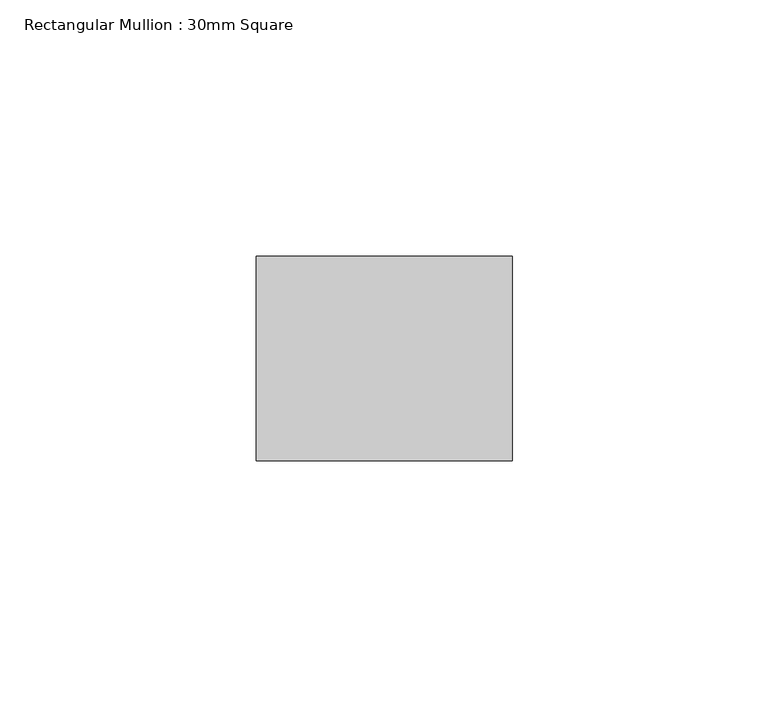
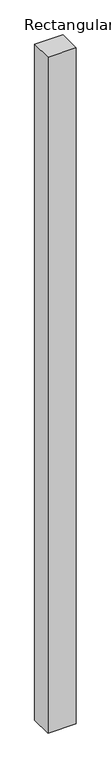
"""IFC4 building model written with IfcOpenShell, lengths in millimetres: member geometry, Rectangular Mullion : 30mm Square."""

from ifc_helpers import new_model, si_unit, frame, origin, place, context, project, spatial, polyline, outline, extrude, source, transform, mapped, element, save


def rectangular_mullion_30mm_square_45b2ee8f(model_context):
    return source(origin(), model_context, "Body", "SweptSolid", [
        extrude(outline(polyline([(25.0, 20.0), (25.0, -20.0), (-25.0, -20.0), (-25.0, 20.0), (25.0, 20.0)])), frame((0.0, 0.0, -1260.0), z_axis=(0.0, 0.0, 1.0), x_axis=(1.0, 0.0, 0.0)), (0.0, 0.0, 1.0), 1260.0),
    ])


if __name__ == "__main__":
    model = new_model("IFC4")
    model_context = context("Model", 3, world=origin())
    ifc_project = project(units=[si_unit("LENGTHUNIT", "METRE", prefix="MILLI")], contexts=[model_context])
    site = spatial("IfcSite", under=ifc_project)
    building = spatial("IfcBuilding", under=site)
    placement = place(None, origin())
    rectangular_mullion_30mm_square_shape = rectangular_mullion_30mm_square_45b2ee8f(model_context)
    element("IfcMember", 1, ObjectType="Rectangular Mullion : 30mm Square", at=placement, inside=building, context=model_context, shape_type="MappedRepresentation", body=[
        mapped(rectangular_mullion_30mm_square_shape, transform((0.0, 0.0, 0.0), x_axis=(1.0, 0.0, 0.0), y_axis=(0.0, 1.0, 0.0), z_axis=(0.0, 0.0, 1.0))),
    ])
    save(model, "model.ifc")
